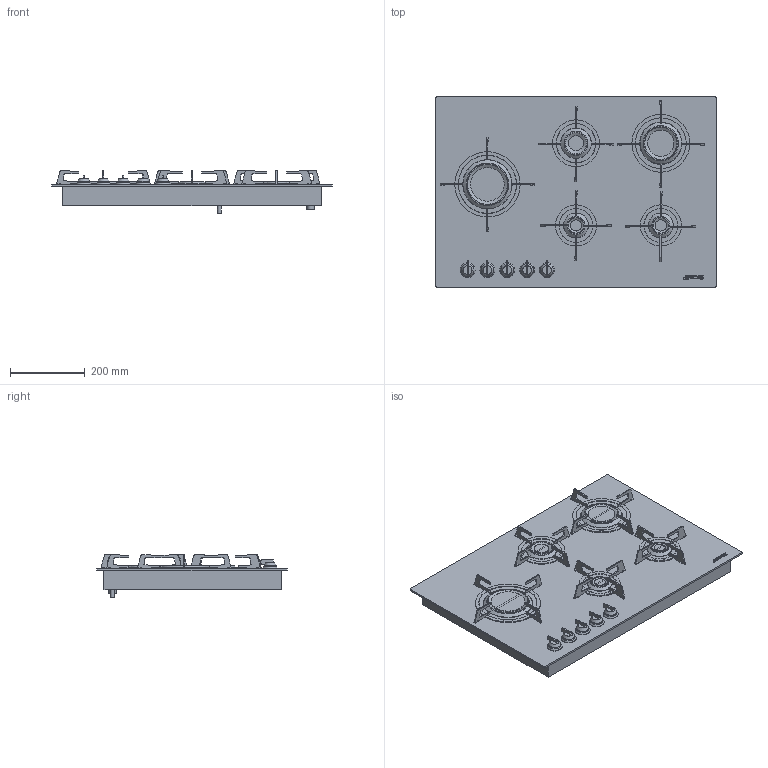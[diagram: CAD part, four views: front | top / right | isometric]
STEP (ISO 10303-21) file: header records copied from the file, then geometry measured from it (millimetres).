
FILE_DESCRIPTION(/* description */ (''),/* implementation_level */ '2;1');
FILE_NAME(/* name */ 'piano pxl675.stp',/* time_stamp */ '2018-10-29T14:18:28+01:00',/* author */ (''),/* organization */ (''),/* preprocessor_version */ 'ST-DEVELOPER v16',/* originating_system */ 'SIEMENS PLM Software NX 11.0',/* authorisation */ '');
FILE_SCHEMA (('AUTOMOTIVE_DESIGN { 1 0 10303 214 3 1 1 1 }'));
Length unit declared in the file: millimetre
Products named in the file (1): gobbF228C1C8cnud
Bounding box: 750 x 510 x 113.16 mm (x, y, z)
Volume: 18851172.3 mm3; surface area: 1990242.3 mm2
Topology: 82 solids, 82 shells, 901 faces, 2095 edges, 1386 vertices
Faces by surface type: plane 600, cylinder 259, cone 25, extrusion 11, torus 6
Full cylindrical faces by diameter (mm): 4.608 x6, 5 x5, 10 x1, 20 x2, 25 x5, 30 x2, 40 x6, 43 x2, 47 x2, 58 x1, 62 x1, 65 x2, 67 x2, 70 x1, 80 x1, 82 x1, 88 x1, 90 x3, 91 x2, 92 x1, 98 x2, 105 x1, 106 x1, 108.4 x1, 110 x3, 112 x1, 113 x2, 125 x1, 130 x1, 132 x1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
Entity records: 25846 total; most frequent: CARTESIAN_POINT 4710, DIRECTION 4292, ORIENTED_EDGE 3968, EDGE_CURVE 1984, AXIS2_PLACEMENT_3D 1459, VECTOR 1374, VERTEX_POINT 1371, LINE 1363
